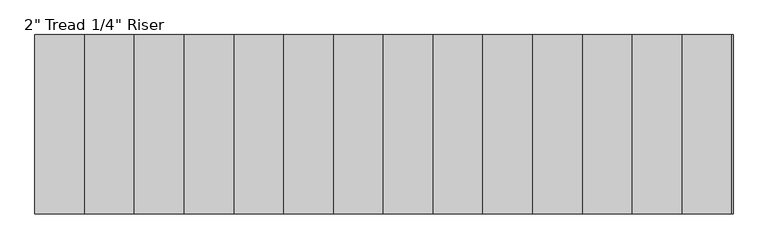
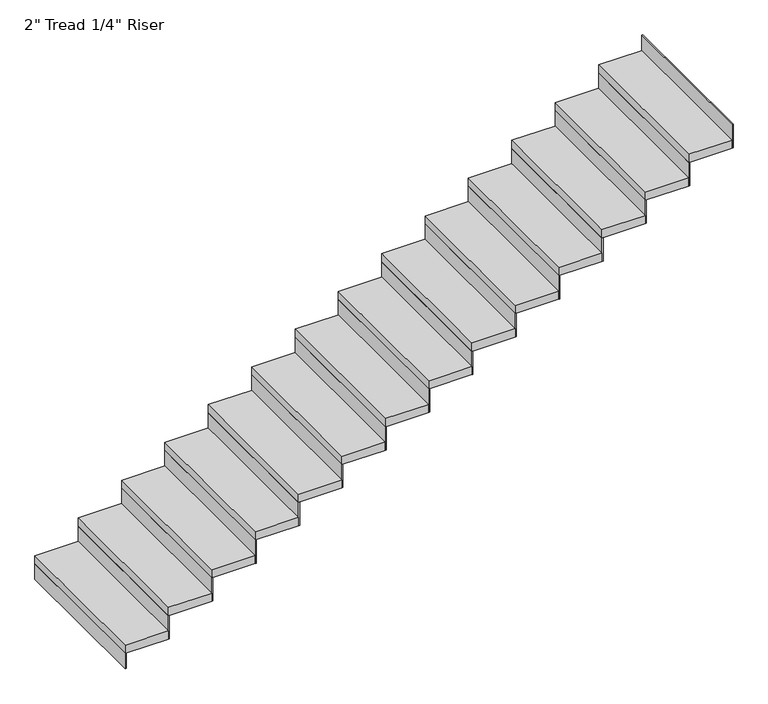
"""IFC4 building model written with IfcOpenShell, lengths in millimetres: stair flight geometry."""

from ifc_helpers import new_model, si_unit, frame, origin, origin_with_axes, place, context, project, spatial, polyline, outline, extrude, source, transform, mapped, element, save


def stair_flight_4a6b0129(model_context):
    return source(origin(), model_context, "Body", "SweptSolid", [
        extrude(outline(polyline([(46401.0741768, 36015.7361774), (46394.7241768, 36015.7361774), (46394.7241768, 36930.1361774), (46401.0741768, 36930.1361774), (46401.0741768, 36015.7361774)])), origin_with_axes(), (0.0, 0.0, 1.0), 94.3428571),
        extrude(outline(polyline([(46648.7241768, 36930.1361774), (46648.7241768, 36015.7361774), (46394.7241768, 36015.7361774), (46394.7241768, 36930.1361774), (46648.7241768, 36930.1361774)])), frame((0.0, 0.0, 94.3428571), z_axis=(0.0, 0.0, 1.0), x_axis=(1.0, 0.0, 0.0)), (0.0, 0.0, 1.0), 50.8),
        extrude(outline(polyline([(46655.0741768, 36015.7361774), (46648.7241768, 36015.7361774), (46648.7241768, 36930.1361774), (46655.0741768, 36930.1361774), (46655.0741768, 36015.7361774)])), frame((0.0, 0.0, 94.3428571), z_axis=(0.0, 0.0, 1.0), x_axis=(1.0, 0.0, 0.0)), (0.0, 0.0, 1.0), 145.1428571),
        extrude(outline(polyline([(46902.7241768, 36930.1361774), (46902.7241768, 36015.7361774), (46648.7241768, 36015.7361774), (46648.7241768, 36930.1361774), (46902.7241768, 36930.1361774)])), frame((0.0, 0.0, 239.4857143), z_axis=(0.0, 0.0, 1.0), x_axis=(1.0, 0.0, 0.0)), (0.0, 0.0, 1.0), 50.8),
        extrude(outline(polyline([(46909.0741768, 36015.7361774), (46902.7241768, 36015.7361774), (46902.7241768, 36930.1361774), (46909.0741768, 36930.1361774), (46909.0741768, 36015.7361774)])), frame((0.0, 0.0, 239.4857143), z_axis=(0.0, 0.0, 1.0), x_axis=(1.0, 0.0, 0.0)), (0.0, 0.0, 1.0), 145.1428571),
        extrude(outline(polyline([(47156.7241768, 36930.1361774), (47156.7241768, 36015.7361774), (46902.7241768, 36015.7361774), (46902.7241768, 36930.1361774), (47156.7241768, 36930.1361774)])), frame((0.0, 0.0, 384.6285714), z_axis=(0.0, 0.0, 1.0), x_axis=(1.0, 0.0, 0.0)), (0.0, 0.0, 1.0), 50.8),
        extrude(outline(polyline([(47163.0741768, 36015.7361774), (47156.7241768, 36015.7361774), (47156.7241768, 36930.1361774), (47163.0741768, 36930.1361774), (47163.0741768, 36015.7361774)])), frame((0.0, 0.0, 384.6285714), z_axis=(0.0, 0.0, 1.0), x_axis=(1.0, 0.0, 0.0)), (0.0, 0.0, 1.0), 145.1428571),
        extrude(outline(polyline([(47410.7241768, 36930.1361774), (47410.7241768, 36015.7361774), (47156.7241768, 36015.7361774), (47156.7241768, 36930.1361774), (47410.7241768, 36930.1361774)])), frame((0.0, 0.0, 529.7714286), z_axis=(0.0, 0.0, 1.0), x_axis=(1.0, 0.0, 0.0)), (0.0, 0.0, 1.0), 50.8),
        extrude(outline(polyline([(47417.0741768, 36015.7361774), (47410.7241768, 36015.7361774), (47410.7241768, 36930.1361774), (47417.0741768, 36930.1361774), (47417.0741768, 36015.7361774)])), frame((0.0, 0.0, 529.7714286), z_axis=(0.0, 0.0, 1.0), x_axis=(1.0, 0.0, 0.0)), (0.0, 0.0, 1.0), 145.1428571),
        extrude(outline(polyline([(47664.7241768, 36930.1361774), (47664.7241768, 36015.7361774), (47410.7241768, 36015.7361774), (47410.7241768, 36930.1361774), (47664.7241768, 36930.1361774)])), frame((0.0, 0.0, 674.9142857), z_axis=(0.0, 0.0, 1.0), x_axis=(1.0, 0.0, 0.0)), (0.0, 0.0, 1.0), 50.8),
        extrude(outline(polyline([(47671.0741768, 36015.7361774), (47664.7241768, 36015.7361774), (47664.7241768, 36930.1361774), (47671.0741768, 36930.1361774), (47671.0741768, 36015.7361774)])), frame((0.0, 0.0, 674.9142857), z_axis=(0.0, 0.0, 1.0), x_axis=(1.0, 0.0, 0.0)), (0.0, 0.0, 1.0), 145.1428571),
        extrude(outline(polyline([(47918.7241768, 36930.1361774), (47918.7241768, 36015.7361774), (47664.7241768, 36015.7361774), (47664.7241768, 36930.1361774), (47918.7241768, 36930.1361774)])), frame((0.0, 0.0, 820.0571429), z_axis=(0.0, 0.0, 1.0), x_axis=(1.0, 0.0, 0.0)), (0.0, 0.0, 1.0), 50.8),
        extrude(outline(polyline([(47925.0741768, 36015.7361774), (47918.7241768, 36015.7361774), (47918.7241768, 36930.1361774), (47925.0741768, 36930.1361774), (47925.0741768, 36015.7361774)])), frame((0.0, 0.0, 820.0571429), z_axis=(0.0, 0.0, 1.0), x_axis=(1.0, 0.0, 0.0)), (0.0, 0.0, 1.0), 145.1428571),
        extrude(outline(polyline([(48172.7241768, 36930.1361774), (48172.7241768, 36015.7361774), (47918.7241768, 36015.7361774), (47918.7241768, 36930.1361774), (48172.7241768, 36930.1361774)])), frame((0.0, 0.0, 965.2), z_axis=(0.0, 0.0, 1.0), x_axis=(1.0, 0.0, 0.0)), (0.0, 0.0, 1.0), 50.8),
        extrude(outline(polyline([(48179.0741768, 36015.7361774), (48172.7241768, 36015.7361774), (48172.7241768, 36930.1361774), (48179.0741768, 36930.1361774), (48179.0741768, 36015.7361774)])), frame((0.0, 0.0, 965.2), z_axis=(0.0, 0.0, 1.0), x_axis=(1.0, 0.0, 0.0)), (0.0, 0.0, 1.0), 145.1428571),
        extrude(outline(polyline([(48426.7241768, 36930.1361774), (48426.7241768, 36015.7361774), (48172.7241768, 36015.7361774), (48172.7241768, 36930.1361774), (48426.7241768, 36930.1361774)])), frame((0.0, 0.0, 1110.3428571), z_axis=(0.0, 0.0, 1.0), x_axis=(1.0, 0.0, 0.0)), (0.0, 0.0, 1.0), 50.8),
        extrude(outline(polyline([(48433.0741768, 36015.7361774), (48426.7241768, 36015.7361774), (48426.7241768, 36930.1361774), (48433.0741768, 36930.1361774), (48433.0741768, 36015.7361774)])), frame((0.0, 0.0, 1110.3428571), z_axis=(0.0, 0.0, 1.0), x_axis=(1.0, 0.0, 0.0)), (0.0, 0.0, 1.0), 145.1428571),
        extrude(outline(polyline([(48680.7241768, 36930.1361774), (48680.7241768, 36015.7361774), (48426.7241768, 36015.7361774), (48426.7241768, 36930.1361774), (48680.7241768, 36930.1361774)])), frame((0.0, 0.0, 1255.4857143), z_axis=(0.0, 0.0, 1.0), x_axis=(1.0, 0.0, 0.0)), (0.0, 0.0, 1.0), 50.8),
        extrude(outline(polyline([(48687.0741768, 36015.7361774), (48680.7241768, 36015.7361774), (48680.7241768, 36930.1361774), (48687.0741768, 36930.1361774), (48687.0741768, 36015.7361774)])), frame((0.0, 0.0, 1255.4857143), z_axis=(0.0, 0.0, 1.0), x_axis=(1.0, 0.0, 0.0)), (0.0, 0.0, 1.0), 145.1428571),
        extrude(outline(polyline([(48934.7241768, 36930.1361774), (48934.7241768, 36015.7361774), (48680.7241768, 36015.7361774), (48680.7241768, 36930.1361774), (48934.7241768, 36930.1361774)])), frame((0.0, 0.0, 1400.6285714), z_axis=(0.0, 0.0, 1.0), x_axis=(1.0, 0.0, 0.0)), (0.0, 0.0, 1.0), 50.8),
        extrude(outline(polyline([(48941.0741768, 36015.7361774), (48934.7241768, 36015.7361774), (48934.7241768, 36930.1361774), (48941.0741768, 36930.1361774), (48941.0741768, 36015.7361774)])), frame((0.0, 0.0, 1400.6285714), z_axis=(0.0, 0.0, 1.0), x_axis=(1.0, 0.0, 0.0)), (0.0, 0.0, 1.0), 145.1428571),
        extrude(outline(polyline([(49188.7241768, 36930.1361774), (49188.7241768, 36015.7361774), (48934.7241768, 36015.7361774), (48934.7241768, 36930.1361774), (49188.7241768, 36930.1361774)])), frame((0.0, 0.0, 1545.7714286), z_axis=(0.0, 0.0, 1.0), x_axis=(1.0, 0.0, 0.0)), (0.0, 0.0, 1.0), 50.8),
        extrude(outline(polyline([(49195.0741768, 36015.7361774), (49188.7241768, 36015.7361774), (49188.7241768, 36930.1361774), (49195.0741768, 36930.1361774), (49195.0741768, 36015.7361774)])), frame((0.0, 0.0, 1545.7714286), z_axis=(0.0, 0.0, 1.0), x_axis=(1.0, 0.0, 0.0)), (0.0, 0.0, 1.0), 145.1428571),
        extrude(outline(polyline([(49442.7241768, 36930.1361774), (49442.7241768, 36015.7361774), (49188.7241768, 36015.7361774), (49188.7241768, 36930.1361774), (49442.7241768, 36930.1361774)])), frame((0.0, 0.0, 1690.9142857), z_axis=(0.0, 0.0, 1.0), x_axis=(1.0, 0.0, 0.0)), (0.0, 0.0, 1.0), 50.8),
        extrude(outline(polyline([(49449.0741768, 36015.7361774), (49442.7241768, 36015.7361774), (49442.7241768, 36930.1361774), (49449.0741768, 36930.1361774), (49449.0741768, 36015.7361774)])), frame((0.0, 0.0, 1690.9142857), z_axis=(0.0, 0.0, 1.0), x_axis=(1.0, 0.0, 0.0)), (0.0, 0.0, 1.0), 145.1428571),
        extrude(outline(polyline([(49696.7241768, 36930.1361774), (49696.7241768, 36015.7361774), (49442.7241768, 36015.7361774), (49442.7241768, 36930.1361774), (49696.7241768, 36930.1361774)])), frame((0.0, 0.0, 1836.0571429), z_axis=(0.0, 0.0, 1.0), x_axis=(1.0, 0.0, 0.0)), (0.0, 0.0, 1.0), 50.8),
        extrude(outline(polyline([(49703.0741768, 36015.7361774), (49696.7241768, 36015.7361774), (49696.7241768, 36930.1361774), (49703.0741768, 36930.1361774), (49703.0741768, 36015.7361774)])), frame((0.0, 0.0, 1836.0571429), z_axis=(0.0, 0.0, 1.0), x_axis=(1.0, 0.0, 0.0)), (0.0, 0.0, 1.0), 145.1428571),
        extrude(outline(polyline([(49957.0741768, 36015.7361774), (49950.7241768, 36015.7361774), (49950.7241768, 36930.1361774), (49957.0741768, 36930.1361774), (49957.0741768, 36015.7361774)])), frame((0.0, 0.0, 1981.2), z_axis=(0.0, 0.0, 1.0), x_axis=(1.0, 0.0, 0.0)), (0.0, 0.0, 1.0), 145.1428571),
        extrude(outline(polyline([(49950.7241768, 36930.1361774), (49950.7241768, 36015.7361774), (49696.7241768, 36015.7361774), (49696.7241768, 36930.1361774), (49950.7241768, 36930.1361774)])), frame((0.0, 0.0, 1981.2), z_axis=(0.0, 0.0, 1.0), x_axis=(1.0, 0.0, 0.0)), (0.0, 0.0, 1.0), 50.8),
    ])


if __name__ == "__main__":
    model = new_model("IFC4")
    model_context = context("Model", 3, world=origin())
    ifc_project = project(units=[si_unit("LENGTHUNIT", "METRE", prefix="MILLI")], contexts=[model_context])
    site = spatial("IfcSite", under=ifc_project)
    building = spatial("IfcBuilding", under=site)
    placement = place(None, origin())
    stair_flight_shape = stair_flight_4a6b0129(model_context)
    element("IfcStairFlight", 1, ObjectType="2\" Tread 1/4\" Riser", at=placement, inside=building, context=model_context, shape_type="MappedRepresentation", body=[
        mapped(stair_flight_shape, transform((0.0, 0.0, 0.0), x_axis=(1.0, 0.0, 0.0), y_axis=(0.0, 1.0, 0.0), z_axis=(0.0, 0.0, 1.0))),
    ])
    save(model, "model.ifc")
